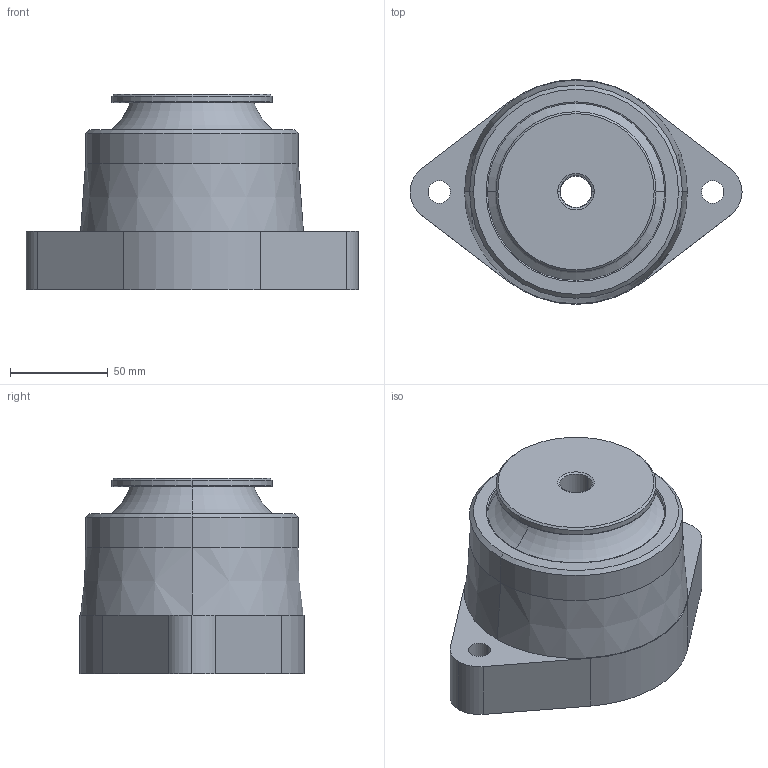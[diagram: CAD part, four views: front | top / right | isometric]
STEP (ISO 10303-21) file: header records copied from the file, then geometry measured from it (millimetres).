
FILE_DESCRIPTION(('STEP AP214'),'1');
FILE_NAME('U:/Inhalte (Daten)/Content neue Seite/CAD Files/EluFlex_120_ZDMF_111115.stp','2015-11-11T16:06:08',(' '),(' '),'Spatial InterOp 3D',' ',' ');
FILE_SCHEMA(('automotive_design'));
Length unit declared in the file: millimetre
Products named in the file (1): 1
Bounding box: 170 x 115 x 100 mm (x, y, z)
Volume: 700214.2 mm3; surface area: 100153 mm2
Topology: 1 solids, 2 shells, 92 faces, 196 edges, 112 vertices
Faces by surface type: cylinder 32, torus 28, cone 20, plane 12
Entity records: 2513 total; most frequent: DIRECTION 514, CARTESIAN_POINT 401, ORIENTED_EDGE 392, AXIS2_PLACEMENT_3D 225, EDGE_CURVE 196, CIRCLE 132, VERTEX_POINT 112, EDGE_LOOP 104
